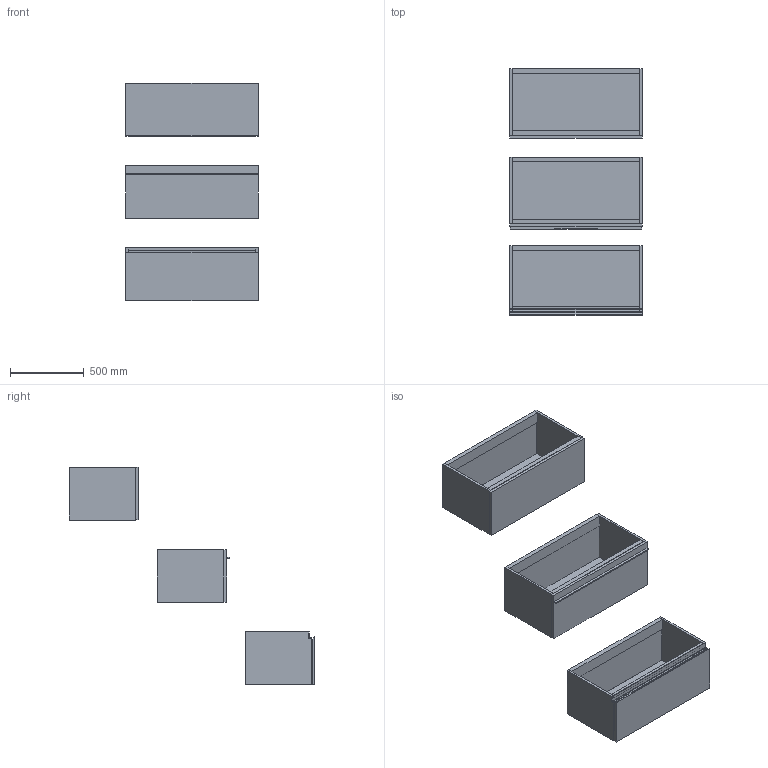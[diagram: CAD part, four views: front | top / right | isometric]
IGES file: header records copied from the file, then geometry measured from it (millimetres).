
Start section: Data from Parasolid IGES Translator 19.0.9, Copyright(c) 2006 Siemens PL M Software. All Rights Reserved.
Global section: file name: noorth-SI-H 36 D 47 W 90_8345.igs; native system: By Siemens PLM Incorporated; preprocessor: XPlus GENERIC/IGES 19.0.9; author: Noname; organization: Noname; date: 20200601.093057; units: metre
Bounding box: 900 x 1669.1 x 1480.01 mm (x, y, z)
Volume: 62059712.4 mm3; surface area: 9270499.5 mm2
Topology: 23 solids, 23 shells, 196 faces, 418 edges, 258 vertices
Faces by surface type: plane 152, extrusion 16, bspline 16, cylinder 12
